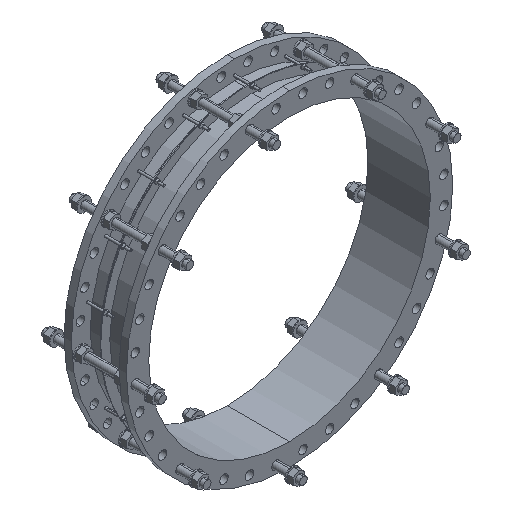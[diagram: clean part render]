
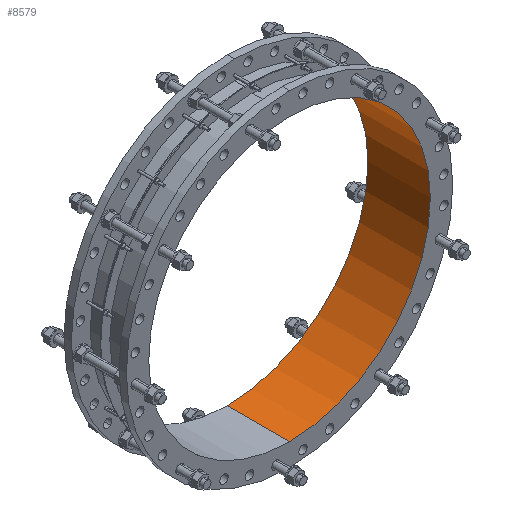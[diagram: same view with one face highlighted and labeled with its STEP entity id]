
A CAD part, isometric view. The second image highlights one B-rep face of the part: STEP entity #8579.
In plain terms, the highlighted cylindrical face has radius 722.5 mm (diameter 1445 mm), a partial arc.
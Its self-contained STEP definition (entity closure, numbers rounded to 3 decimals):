
#7=DIRECTION('',(0.,-1.,0.));
#8=VECTOR('',#7,320.);
#9=CARTESIAN_POINT('',(0.,0.,-722.5));
#10=LINE('',#9,#8);
#11=CARTESIAN_POINT('',(0.,0.,0.));
#12=DIRECTION('',(0.,-1.,0.));
#13=DIRECTION('',(0.,0.,-1.));
#14=AXIS2_PLACEMENT_3D('',#11,#12,#13);
#16=DIRECTION('',(0.,-1.,0.));
#17=VECTOR('',#16,320.);
#18=CARTESIAN_POINT('',(0.,0.,722.5));
#19=LINE('',#18,#17);
#2598=CARTESIAN_POINT('',(0.,-320.,0.));
#2599=DIRECTION('',(0.,-1.,0.));
#2600=DIRECTION('',(0.,0.,-1.));
#2601=AXIS2_PLACEMENT_3D('',#2598,#2599,#2600);
#6912=CARTESIAN_POINT('',(0.,0.,-722.5));
#6913=CARTESIAN_POINT('',(0.,-320.,-722.5));
#6914=VERTEX_POINT('',#6912);
#6915=VERTEX_POINT('',#6913);
#6932=CARTESIAN_POINT('',(0.,0.,722.5));
#6933=CARTESIAN_POINT('',(0.,-320.,722.5));
#6934=VERTEX_POINT('',#6932);
#6935=VERTEX_POINT('',#6933);
#8566=CARTESIAN_POINT('',(0.,-336.,0.));
#8567=DIRECTION('',(0.,1.,0.));
#8568=DIRECTION('',(0.,0.,-1.));
#8569=AXIS2_PLACEMENT_3D('',#8566,#8567,#8568);
#8570=CYLINDRICAL_SURFACE('',#8569,722.5);
#8571=ORIENTED_EDGE('',*,*,#8555,.F.);
#8573=ORIENTED_EDGE('',*,*,#8572,.T.);
#8574=ORIENTED_EDGE('',*,*,#8559,.T.);
#8576=ORIENTED_EDGE('',*,*,#8575,.F.);
#8577=EDGE_LOOP('',(#8571,#8573,#8574,#8576));
#8578=FACE_OUTER_BOUND('',#8577,.F.);
#8579=ADVANCED_FACE('',(#8578),#8570,.F.);
#15=CIRCLE('',#14,722.5);
#2602=CIRCLE('',#2601,722.5);
#8555=EDGE_CURVE('',#6914,#6915,#10,.T.);
#8559=EDGE_CURVE('',#6934,#6935,#19,.T.);
#8572=EDGE_CURVE('',#6914,#6934,#15,.T.);
#8575=EDGE_CURVE('',#6915,#6935,#2602,.T.);
